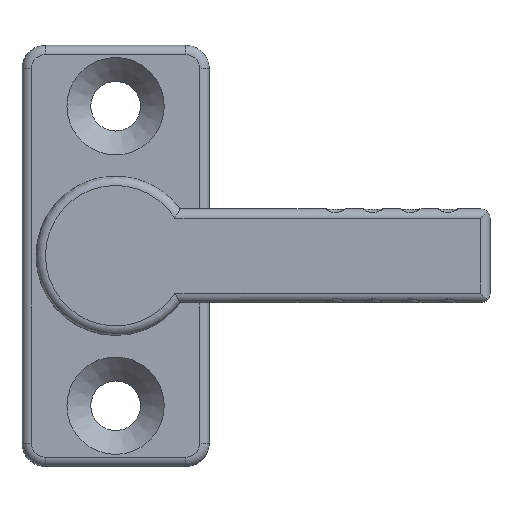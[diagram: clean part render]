
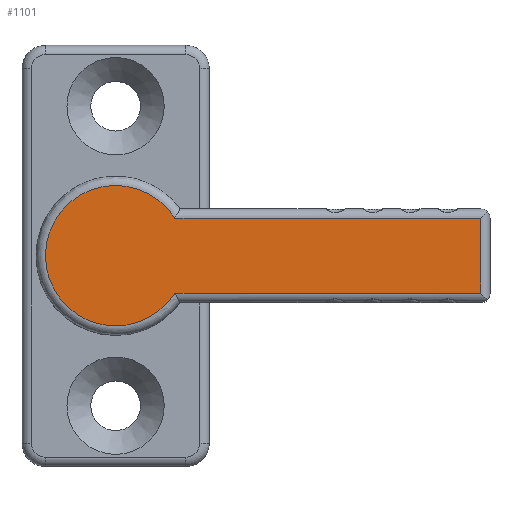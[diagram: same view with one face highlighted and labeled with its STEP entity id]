
A CAD part, top view. The second image highlights one B-rep face of the part: STEP entity #1101.
In plain terms, the highlighted planar face has unit normal (0, 0, 1) as drawn and (0, 1, 0) by its records, which use the part's own axes.
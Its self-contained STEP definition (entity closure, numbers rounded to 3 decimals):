
#149=CIRCLE('',#1251,7.5);
#346=ORIENTED_EDGE('',*,*,#588,.F.);
#347=ORIENTED_EDGE('',*,*,#589,.T.);
#348=ORIENTED_EDGE('',*,*,#590,.T.);
#349=ORIENTED_EDGE('',*,*,#591,.T.);
#588=EDGE_CURVE('',#718,#719,#790,.T.);
#589=EDGE_CURVE('',#718,#720,#149,.T.);
#590=EDGE_CURVE('',#720,#721,#791,.T.);
#591=EDGE_CURVE('',#721,#719,#792,.T.);
#718=VERTEX_POINT('',#1926);
#719=VERTEX_POINT('',#1927);
#720=VERTEX_POINT('',#1929);
#721=VERTEX_POINT('',#1931);
#790=LINE('',#1925,#855);
#791=LINE('',#1930,#856);
#792=LINE('',#1932,#857);
#855=VECTOR('',#1549,1000.);
#856=VECTOR('',#1552,1000.);
#857=VECTOR('',#1553,1000.);
#912=EDGE_LOOP('',(#346,#347,#348,#349));
#1005=FACE_BOUND('',#912,.T.);
#1057=PLANE('',#1250);
#1101=ADVANCED_FACE('',(#1005),#1057,.F.);
#1250=AXIS2_PLACEMENT_3D('',#1924,#1547,#1548);
#1251=AXIS2_PLACEMENT_3D('',#1928,#1550,#1551);
#1547=DIRECTION('',(0.,-1.,0.));
#1548=DIRECTION('',(0.,0.,-1.));
#1549=DIRECTION('',(1.,0.,0.));
#1550=DIRECTION('',(0.,1.,0.));
#1551=DIRECTION('',(0.,0.,1.));
#1552=DIRECTION('',(1.,0.,0.));
#1553=DIRECTION('',(0.,0.,-1.));
#1924=CARTESIAN_POINT('',(39.,16.3,5.));
#1925=CARTESIAN_POINT('',(0.,16.3,-4.));
#1926=CARTESIAN_POINT('',(6.344,16.3,-4.));
#1927=CARTESIAN_POINT('',(39.,16.3,-4.));
#1928=CARTESIAN_POINT('',(0.,16.3,0.));
#1929=CARTESIAN_POINT('',(6.344,16.3,4.));
#1930=CARTESIAN_POINT('',(0.,16.3,4.));
#1931=CARTESIAN_POINT('',(39.,16.3,4.));
#1932=CARTESIAN_POINT('',(39.,16.3,5.));
